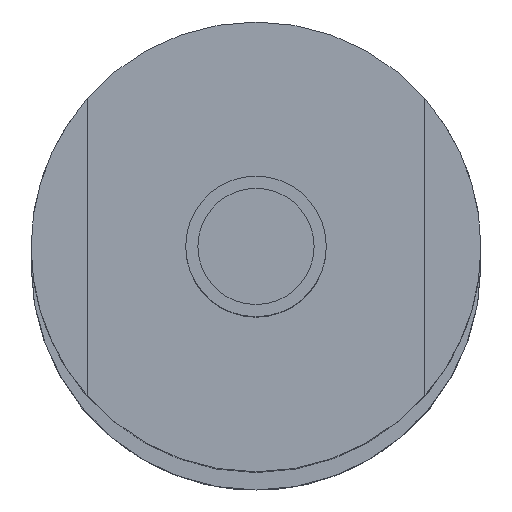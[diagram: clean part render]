
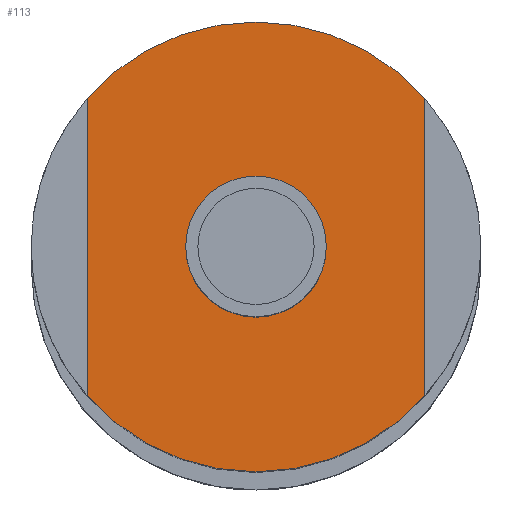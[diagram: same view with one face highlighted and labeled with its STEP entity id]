
A CAD part, top view. The second image highlights one B-rep face of the part: STEP entity #113.
In plain terms, the highlighted planar face has unit normal (0, 0, 1).
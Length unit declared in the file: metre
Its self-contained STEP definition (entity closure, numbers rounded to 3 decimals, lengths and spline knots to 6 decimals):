
#113=ADVANCED_FACE('17:304',(#222,#223),#224,.T.);
#222=FACE_BOUND('',#340,.T.);
#223=FACE_OUTER_BOUND('',#341,.T.);
#224=PLANE('',#342);
#340=EDGE_LOOP('',(#550,#551));
#341=EDGE_LOOP('',(#552,#553,#554,#555,#556,#557));
#342=AXIS2_PLACEMENT_3D('',#558,#559,#560);
#550=ORIENTED_EDGE('',*,*,#643,.T.);
#551=ORIENTED_EDGE('',*,*,#714,.T.);
#552=ORIENTED_EDGE('',*,*,#716,.F.);
#553=ORIENTED_EDGE('',*,*,#653,.F.);
#554=ORIENTED_EDGE('',*,*,#652,.F.);
#555=ORIENTED_EDGE('',*,*,#701,.T.);
#556=ORIENTED_EDGE('',*,*,#708,.F.);
#557=ORIENTED_EDGE('',*,*,#707,.F.);
#558=CARTESIAN_POINT('',(0.,0.,0.299));
#559=DIRECTION('',(0.0,0.0,1.0));
#560=DIRECTION('',(1.0,0.0,0.0));
#643=EDGE_CURVE('19:2123',#759,#756,#760,.F.);
#652=EDGE_CURVE('17:354',#774,#776,#777,.F.);
#653=EDGE_CURVE('17:345',#776,#778,#779,.F.);
#701=EDGE_CURVE('17:844',#774,#849,#850,.T.);
#707=EDGE_CURVE('17:351',#857,#859,#860,.F.);
#708=EDGE_CURVE('17:342',#859,#849,#861,.F.);
#714=EDGE_CURVE('',#756,#759,#867,.F.);
#716=EDGE_CURVE('17:790',#778,#857,#869,.F.);
#756=VERTEX_POINT('',#933);
#759=VERTEX_POINT('',#937);
#760=CIRCLE('',#938,0.0025);
#774=VERTEX_POINT('',#955);
#776=VERTEX_POINT('',#958);
#777=CIRCLE('',#959,0.008);
#778=VERTEX_POINT('',#960);
#779=CIRCLE('',#961,0.008);
#849=VERTEX_POINT('',#1046);
#850=LINE('',#1047,#1048);
#857=VERTEX_POINT('',#1057);
#859=VERTEX_POINT('',#1060);
#860=CIRCLE('',#1061,0.008);
#861=CIRCLE('',#1062,0.008);
#867=CIRCLE('',#1068,0.0025);
#869=LINE('',#1070,#1071);
#933=CARTESIAN_POINT('',(0.00239,0.000133,0.299));
#937=CARTESIAN_POINT('',(-0.00261,0.000133,0.299));
#938=AXIS2_PLACEMENT_3D('',#1144,#1145,#1146);
#955=CARTESIAN_POINT('',(-0.00611,0.005425,0.299));
#958=CARTESIAN_POINT('',(-0.00011,0.008133,0.299));
#959=AXIS2_PLACEMENT_3D('',#1160,#1161,#1162);
#960=CARTESIAN_POINT('',(0.00589,0.005425,0.299));
#961=AXIS2_PLACEMENT_3D('',#1163,#1164,#1165);
#1046=CARTESIAN_POINT('',(-0.00611,-0.005158,0.299));
#1047=CARTESIAN_POINT('',(-0.00611,0.000067,0.299));
#1048=VECTOR('',#1235,1.0);
#1057=CARTESIAN_POINT('',(0.00589,-0.005158,0.299));
#1060=CARTESIAN_POINT('',(-0.00011,-0.007867,0.299));
#1061=AXIS2_PLACEMENT_3D('',#1242,#1243,#1244);
#1062=AXIS2_PLACEMENT_3D('',#1245,#1246,#1247);
#1068=AXIS2_PLACEMENT_3D('',#1257,#1258,#1259);
#1070=CARTESIAN_POINT('',(0.00589,0.000067,0.299));
#1071=VECTOR('',#1260,1.0);
#1144=CARTESIAN_POINT('',(-0.00011,0.000133,0.299));
#1145=DIRECTION('',(0.0,0.0,1.0));
#1146=DIRECTION('',(1.0,0.0,-0.0));
#1160=CARTESIAN_POINT('',(-0.00011,0.000133,0.299));
#1161=DIRECTION('',(0.0,0.0,1.0));
#1162=DIRECTION('',(1.0,0.0,0.0));
#1163=CARTESIAN_POINT('',(-0.00011,0.000133,0.299));
#1164=DIRECTION('',(0.0,0.0,1.0));
#1165=DIRECTION('',(1.0,0.0,0.0));
#1235=DIRECTION('',(0.,-1.0,0.0));
#1242=CARTESIAN_POINT('',(-0.00011,0.000133,0.299));
#1243=DIRECTION('',(0.0,0.0,1.0));
#1244=DIRECTION('',(1.0,0.0,0.0));
#1245=CARTESIAN_POINT('',(-0.00011,0.000133,0.299));
#1246=DIRECTION('',(0.0,0.0,1.0));
#1247=DIRECTION('',(1.0,0.0,0.0));
#1257=CARTESIAN_POINT('',(-0.00011,0.000133,0.299));
#1258=DIRECTION('',(0.0,0.0,1.0));
#1259=DIRECTION('',(1.0,0.0,-0.0));
#1260=DIRECTION('',(0.,1.0,0.0));
